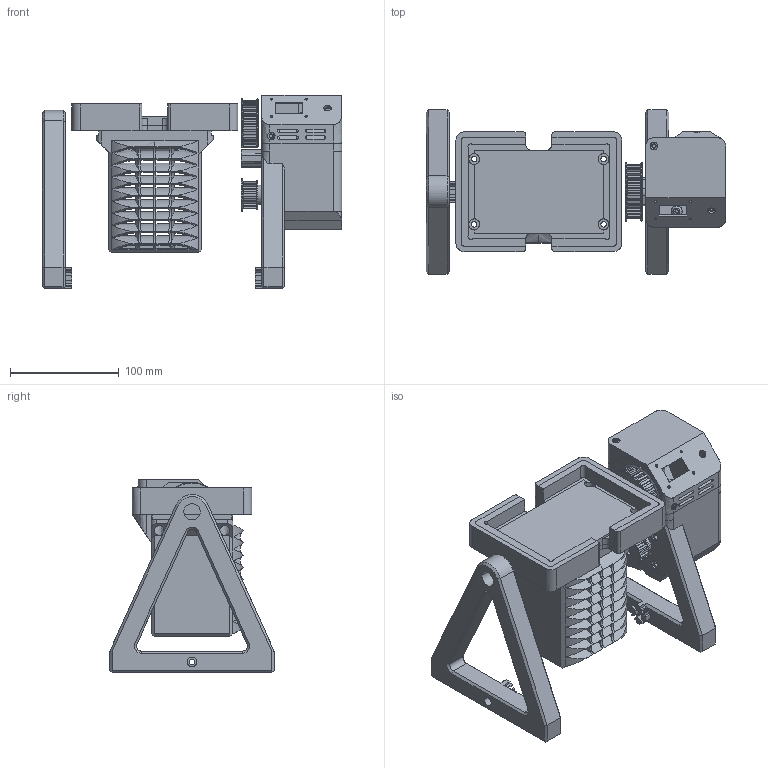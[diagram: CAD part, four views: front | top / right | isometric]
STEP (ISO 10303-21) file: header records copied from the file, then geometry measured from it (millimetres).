
FILE_DESCRIPTION(/* description */ (''),/* implementation_level */ '2;1');
FILE_NAME(/* name */ 'PELTIE~1',/* time_stamp */ '2024-03-25T11:41:26+01:00',/* author */ (''),/* organization */ (''),/* preprocessor_version */ 'ST-DEVELOPER v16.5',/* originating_system */ '',/* authorisation */ '');
FILE_SCHEMA (('AUTOMOTIVE_DESIGN'));
Length unit declared in the file: millimetre
Products named in the file (1): Document
Bounding box: 275.25 x 151 x 178 mm (x, y, z)
Volume: 1024416.9 mm3; surface area: 358380 mm2
Topology: 11 solids, 11 shells, 1566 faces, 4347 edges, 2745 vertices
Faces by surface type: bspline 903, plane 663
Entity records: 56429 total; most frequent: CARTESIAN_POINT 31211, ORIENTED_EDGE 8660, EDGE_CURVE 4330, VERTEX_POINT 2745, B_SPLINE_CURVE_WITH_KNOTS 2327, EDGE_LOOP 1753, ADVANCED_FACE 1566, FACE_OUTER_BOUND 1566
